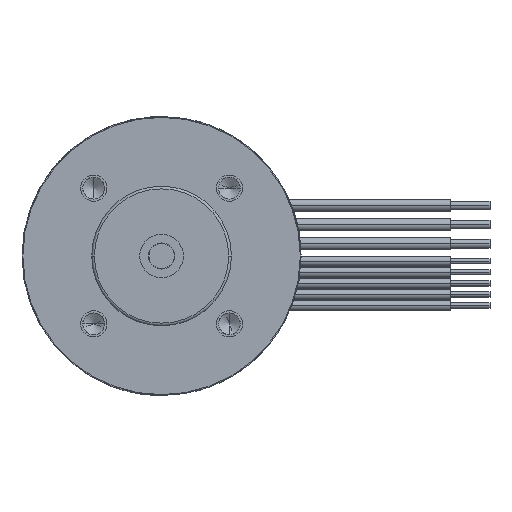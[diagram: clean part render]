
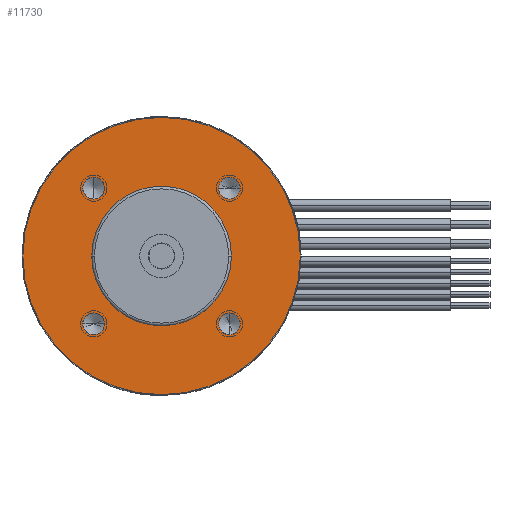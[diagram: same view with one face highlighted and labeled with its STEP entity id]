
A CAD part, left-side view. The second image highlights one B-rep face of the part: STEP entity #11730.
In plain terms, the highlighted planar face has unit normal (-1, 0, 0).
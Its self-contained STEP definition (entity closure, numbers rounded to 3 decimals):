
#3141=CARTESIAN_POINT('',(19.4,0.,0.));
#3142=DIRECTION('',(1.,0.,0.));
#3143=DIRECTION('',(0.,1.,0.));
#3144=AXIS2_PLACEMENT_3D('',#3141,#3142,#3143);
#3146=CARTESIAN_POINT('',(19.4,0.,0.));
#3147=DIRECTION('',(1.,0.,0.));
#3148=DIRECTION('',(0.,-1.,0.));
#3149=AXIS2_PLACEMENT_3D('',#3146,#3147,#3148);
#3151=CARTESIAN_POINT('',(19.4,0.,0.));
#3152=DIRECTION('',(-1.,0.,0.));
#3153=DIRECTION('',(0.,1.,0.));
#3154=AXIS2_PLACEMENT_3D('',#3151,#3152,#3153);
#3156=CARTESIAN_POINT('',(19.4,0.,0.));
#3157=DIRECTION('',(-1.,0.,0.));
#3158=DIRECTION('',(0.,-1.,0.));
#3159=AXIS2_PLACEMENT_3D('',#3156,#3157,#3158);
#3161=CARTESIAN_POINT('',(19.4,7.778,-7.778));
#3162=DIRECTION('',(-1.,0.,0.));
#3163=DIRECTION('',(0.,1.,0.));
#3164=AXIS2_PLACEMENT_3D('',#3161,#3162,#3163);
#3166=CARTESIAN_POINT('',(19.4,7.778,-7.778));
#3167=DIRECTION('',(-1.,0.,0.));
#3168=DIRECTION('',(0.,-1.,0.));
#3169=AXIS2_PLACEMENT_3D('',#3166,#3167,#3168);
#3171=CARTESIAN_POINT('',(19.4,7.778,7.778));
#3172=DIRECTION('',(-1.,0.,0.));
#3173=DIRECTION('',(0.,0.,1.));
#3174=AXIS2_PLACEMENT_3D('',#3171,#3172,#3173);
#3176=CARTESIAN_POINT('',(19.4,7.778,7.778));
#3177=DIRECTION('',(-1.,0.,0.));
#3178=DIRECTION('',(0.,0.,-1.));
#3179=AXIS2_PLACEMENT_3D('',#3176,#3177,#3178);
#3181=CARTESIAN_POINT('',(19.4,-7.778,7.778));
#3182=DIRECTION('',(-1.,0.,0.));
#3183=DIRECTION('',(0.,-1.,0.));
#3184=AXIS2_PLACEMENT_3D('',#3181,#3182,#3183);
#3186=CARTESIAN_POINT('',(19.4,-7.778,7.778));
#3187=DIRECTION('',(-1.,0.,0.));
#3188=DIRECTION('',(0.,1.,0.));
#3189=AXIS2_PLACEMENT_3D('',#3186,#3187,#3188);
#3191=CARTESIAN_POINT('',(19.4,-7.778,-7.778));
#3192=DIRECTION('',(-1.,0.,0.));
#3193=DIRECTION('',(0.,0.,-1.));
#3194=AXIS2_PLACEMENT_3D('',#3191,#3192,#3193);
#3196=CARTESIAN_POINT('',(19.4,-7.778,-7.778));
#3197=DIRECTION('',(-1.,0.,0.));
#3198=DIRECTION('',(0.,0.,1.));
#3199=AXIS2_PLACEMENT_3D('',#3196,#3197,#3198);
#5903=CARTESIAN_POINT('',(19.4,15.9,0.));
#5904=VERTEX_POINT('',#5903);
#5905=CARTESIAN_POINT('',(19.4,-15.9,0.));
#5906=VERTEX_POINT('',#5905);
#5907=CARTESIAN_POINT('',(19.4,9.028,-7.778));
#5908=CARTESIAN_POINT('',(19.4,6.528,-7.778));
#5909=VERTEX_POINT('',#5907);
#5910=VERTEX_POINT('',#5908);
#5911=CARTESIAN_POINT('',(19.4,7.778,9.028));
#5912=CARTESIAN_POINT('',(19.4,7.778,6.528));
#5913=VERTEX_POINT('',#5911);
#5914=VERTEX_POINT('',#5912);
#5915=CARTESIAN_POINT('',(19.4,-9.028,7.778));
#5916=CARTESIAN_POINT('',(19.4,-6.528,7.778));
#5917=VERTEX_POINT('',#5915);
#5918=VERTEX_POINT('',#5916);
#5919=CARTESIAN_POINT('',(19.4,-7.778,-9.028));
#5920=CARTESIAN_POINT('',(19.4,-7.778,-6.528));
#5921=VERTEX_POINT('',#5919);
#5922=VERTEX_POINT('',#5920);
#5923=CARTESIAN_POINT('',(19.4,8.,0.));
#5924=CARTESIAN_POINT('',(19.4,-8.,0.));
#5925=VERTEX_POINT('',#5923);
#5926=VERTEX_POINT('',#5924);
#11691=CARTESIAN_POINT('',(19.4,0.,0.));
#11692=DIRECTION('',(1.,0.,0.));
#11693=DIRECTION('',(0.,1.,0.));
#11694=AXIS2_PLACEMENT_3D('',#11691,#11692,#11693);
#11695=PLANE('',#11694);
#11696=ORIENTED_EDGE('',*,*,#11686,.T.);
#11697=ORIENTED_EDGE('',*,*,#11670,.T.);
#11698=EDGE_LOOP('',(#11696,#11697));
#11699=FACE_OUTER_BOUND('',#11698,.F.);
#11701=ORIENTED_EDGE('',*,*,#11700,.T.);
#11703=ORIENTED_EDGE('',*,*,#11702,.T.);
#11704=EDGE_LOOP('',(#11701,#11703));
#11705=FACE_BOUND('',#11704,.F.);
#11707=ORIENTED_EDGE('',*,*,#11706,.T.);
#11709=ORIENTED_EDGE('',*,*,#11708,.T.);
#11710=EDGE_LOOP('',(#11707,#11709));
#11711=FACE_BOUND('',#11710,.F.);
#11713=ORIENTED_EDGE('',*,*,#11712,.T.);
#11715=ORIENTED_EDGE('',*,*,#11714,.T.);
#11716=EDGE_LOOP('',(#11713,#11715));
#11717=FACE_BOUND('',#11716,.F.);
#11719=ORIENTED_EDGE('',*,*,#11718,.T.);
#11721=ORIENTED_EDGE('',*,*,#11720,.T.);
#11722=EDGE_LOOP('',(#11719,#11721));
#11723=FACE_BOUND('',#11722,.F.);
#11725=ORIENTED_EDGE('',*,*,#11724,.T.);
#11727=ORIENTED_EDGE('',*,*,#11726,.T.);
#11728=EDGE_LOOP('',(#11725,#11727));
#11729=FACE_BOUND('',#11728,.F.);
#11730=ADVANCED_FACE('',(#11699,#11705,#11711,#11717,#11723,#11729),#11695,.F.);
#3145=CIRCLE('',#3144,15.9);
#3150=CIRCLE('',#3149,15.9);
#3155=CIRCLE('',#3154,8.);
#3160=CIRCLE('',#3159,8.);
#3165=CIRCLE('',#3164,1.25);
#3170=CIRCLE('',#3169,1.25);
#3175=CIRCLE('',#3174,1.25);
#3180=CIRCLE('',#3179,1.25);
#3185=CIRCLE('',#3184,1.25);
#3190=CIRCLE('',#3189,1.25);
#3195=CIRCLE('',#3194,1.25);
#3200=CIRCLE('',#3199,1.25);
#11670=EDGE_CURVE('',#5906,#5904,#3150,.T.);
#11686=EDGE_CURVE('',#5904,#5906,#3145,.T.);
#11700=EDGE_CURVE('',#5925,#5926,#3155,.T.);
#11702=EDGE_CURVE('',#5926,#5925,#3160,.T.);
#11706=EDGE_CURVE('',#5909,#5910,#3165,.T.);
#11708=EDGE_CURVE('',#5910,#5909,#3170,.T.);
#11712=EDGE_CURVE('',#5913,#5914,#3175,.T.);
#11714=EDGE_CURVE('',#5914,#5913,#3180,.T.);
#11718=EDGE_CURVE('',#5917,#5918,#3185,.T.);
#11720=EDGE_CURVE('',#5918,#5917,#3190,.T.);
#11724=EDGE_CURVE('',#5921,#5922,#3195,.T.);
#11726=EDGE_CURVE('',#5922,#5921,#3200,.T.);
